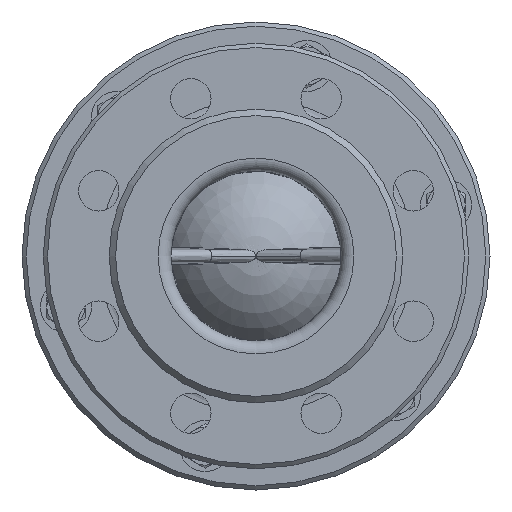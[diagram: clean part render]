
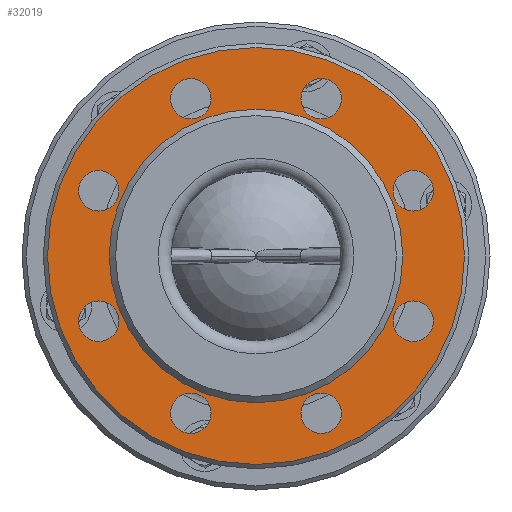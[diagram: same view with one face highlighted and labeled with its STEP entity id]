
A CAD part, front view. The second image highlights one B-rep face of the part: STEP entity #32019.
In plain terms, the highlighted planar face has unit normal (0, -1, 0).
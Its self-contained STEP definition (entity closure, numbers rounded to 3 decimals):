
#4684=PLANE('',#33475);
#8470=ORIENTED_EDGE('',*,*,#13543,.F.);
#8471=ORIENTED_EDGE('',*,*,#13544,.F.);
#8472=ORIENTED_EDGE('',*,*,#13545,.F.);
#8473=ORIENTED_EDGE('',*,*,#13546,.F.);
#8474=ORIENTED_EDGE('',*,*,#13547,.F.);
#8475=ORIENTED_EDGE('',*,*,#13548,.F.);
#8476=ORIENTED_EDGE('',*,*,#13549,.F.);
#8477=ORIENTED_EDGE('',*,*,#13550,.F.);
#8478=ORIENTED_EDGE('',*,*,#13418,.T.);
#8479=ORIENTED_EDGE('',*,*,#13416,.F.);
#13416=EDGE_CURVE('',#16280,#16280,#17754,.T.);
#13418=EDGE_CURVE('',#16282,#16282,#17756,.T.);
#13543=EDGE_CURVE('',#16348,#16348,#17772,.T.);
#13544=EDGE_CURVE('',#16349,#16349,#17773,.T.);
#13545=EDGE_CURVE('',#16350,#16350,#17774,.T.);
#13546=EDGE_CURVE('',#16351,#16351,#17775,.T.);
#13547=EDGE_CURVE('',#16352,#16352,#17776,.T.);
#13548=EDGE_CURVE('',#16353,#16353,#17777,.T.);
#13549=EDGE_CURVE('',#16354,#16354,#17778,.T.);
#13550=EDGE_CURVE('',#16355,#16355,#17779,.T.);
#16280=VERTEX_POINT('',#52141);
#16282=VERTEX_POINT('',#52146);
#16348=VERTEX_POINT('',#53393);
#16349=VERTEX_POINT('',#53395);
#16350=VERTEX_POINT('',#53397);
#16351=VERTEX_POINT('',#53399);
#16352=VERTEX_POINT('',#53401);
#16353=VERTEX_POINT('',#53403);
#16354=VERTEX_POINT('',#53405);
#16355=VERTEX_POINT('',#53407);
#17754=CIRCLE('',#33422,69.);
#17756=CIRCLE('',#33425,98.);
#17772=CIRCLE('',#33476,9.5);
#17773=CIRCLE('',#33477,9.5);
#17774=CIRCLE('',#33478,9.5);
#17775=CIRCLE('',#33479,9.5);
#17776=CIRCLE('',#33480,9.5);
#17777=CIRCLE('',#33481,9.5);
#17778=CIRCLE('',#33482,9.5);
#17779=CIRCLE('',#33483,9.5);
#18891=EDGE_LOOP('',(#8470));
#18892=EDGE_LOOP('',(#8471));
#18893=EDGE_LOOP('',(#8472));
#18894=EDGE_LOOP('',(#8473));
#18895=EDGE_LOOP('',(#8474));
#18896=EDGE_LOOP('',(#8475));
#18897=EDGE_LOOP('',(#8476));
#18898=EDGE_LOOP('',(#8477));
#18899=EDGE_LOOP('',(#8478));
#18900=EDGE_LOOP('',(#8479));
#20618=FACE_BOUND('',#18891,.T.);
#20619=FACE_BOUND('',#18892,.T.);
#20620=FACE_BOUND('',#18893,.T.);
#20621=FACE_BOUND('',#18894,.T.);
#20622=FACE_BOUND('',#18895,.T.);
#20623=FACE_BOUND('',#18896,.T.);
#20624=FACE_BOUND('',#18897,.T.);
#20625=FACE_BOUND('',#18898,.T.);
#20626=FACE_BOUND('',#18899,.T.);
#20627=FACE_BOUND('',#18900,.T.);
#32019=ADVANCED_FACE('',(#20618,#20619,#20620,#20621,#20622,#20623,#20624,
#20625,#20626,#20627),#4684,.T.);
#33422=AXIS2_PLACEMENT_3D('',#52140,#36192,#36193);
#33425=AXIS2_PLACEMENT_3D('',#52145,#36198,#36199);
#33475=AXIS2_PLACEMENT_3D('',#53391,#36351,#36352);
#33476=AXIS2_PLACEMENT_3D('',#53392,#36353,#36354);
#33477=AXIS2_PLACEMENT_3D('',#53394,#36355,#36356);
#33478=AXIS2_PLACEMENT_3D('',#53396,#36357,#36358);
#33479=AXIS2_PLACEMENT_3D('',#53398,#36359,#36360);
#33480=AXIS2_PLACEMENT_3D('',#53400,#36361,#36362);
#33481=AXIS2_PLACEMENT_3D('',#53402,#36363,#36364);
#33482=AXIS2_PLACEMENT_3D('',#53404,#36365,#36366);
#33483=AXIS2_PLACEMENT_3D('',#53406,#36367,#36368);
#36192=DIRECTION('',(0.,-1.,0.));
#36193=DIRECTION('',(0.,0.,-1.));
#36198=DIRECTION('',(0.,-1.,0.));
#36199=DIRECTION('',(0.,0.,-1.));
#36351=DIRECTION('',(0.,-1.,0.));
#36352=DIRECTION('',(1.,0.,0.));
#36353=DIRECTION('',(0.,-1.,0.));
#36354=DIRECTION('',(1.,0.,0.));
#36355=DIRECTION('',(0.,-1.,0.));
#36356=DIRECTION('',(1.,0.,0.));
#36357=DIRECTION('',(0.,-1.,0.));
#36358=DIRECTION('',(1.,0.,0.));
#36359=DIRECTION('',(0.,-1.,0.));
#36360=DIRECTION('',(1.,0.,0.));
#36361=DIRECTION('',(0.,-1.,0.));
#36362=DIRECTION('',(1.,0.,0.));
#36363=DIRECTION('',(0.,-1.,0.));
#36364=DIRECTION('',(1.,0.,0.));
#36365=DIRECTION('',(0.,-1.,0.));
#36366=DIRECTION('',(1.,0.,0.));
#36367=DIRECTION('',(0.,-1.,0.));
#36368=DIRECTION('',(1.,0.,0.));
#52140=CARTESIAN_POINT('',(0.,-56.,0.));
#52141=CARTESIAN_POINT('',(0.,-56.,-69.));
#52145=CARTESIAN_POINT('',(0.,-56.,0.));
#52146=CARTESIAN_POINT('',(0.,-56.,-98.));
#53391=CARTESIAN_POINT('',(-70.,-56.,0.));
#53392=CARTESIAN_POINT('',(-73.91,-56.,30.615));
#53393=CARTESIAN_POINT('',(-64.41,-56.,30.615));
#53394=CARTESIAN_POINT('',(-73.91,-56.,-30.615));
#53395=CARTESIAN_POINT('',(-64.41,-56.,-30.615));
#53396=CARTESIAN_POINT('',(-30.615,-56.,-73.91));
#53397=CARTESIAN_POINT('',(-21.115,-56.,-73.91));
#53398=CARTESIAN_POINT('',(30.615,-56.,-73.91));
#53399=CARTESIAN_POINT('',(40.115,-56.,-73.91));
#53400=CARTESIAN_POINT('',(73.91,-56.,-30.615));
#53401=CARTESIAN_POINT('',(83.41,-56.,-30.615));
#53402=CARTESIAN_POINT('',(73.91,-56.,30.615));
#53403=CARTESIAN_POINT('',(83.41,-56.,30.615));
#53404=CARTESIAN_POINT('',(30.615,-56.,73.91));
#53405=CARTESIAN_POINT('',(40.115,-56.,73.91));
#53406=CARTESIAN_POINT('',(-30.615,-56.,73.91));
#53407=CARTESIAN_POINT('',(-21.115,-56.,73.91));
